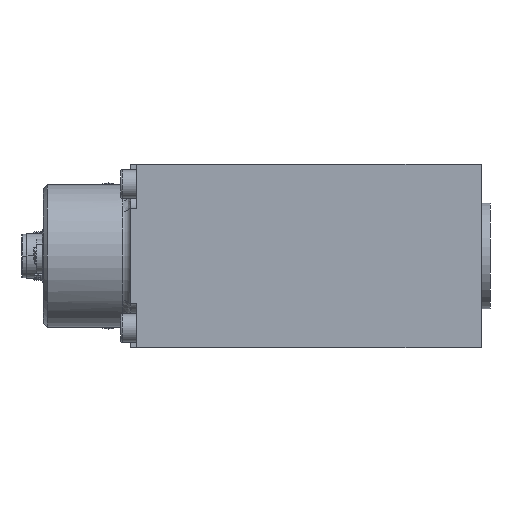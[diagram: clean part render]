
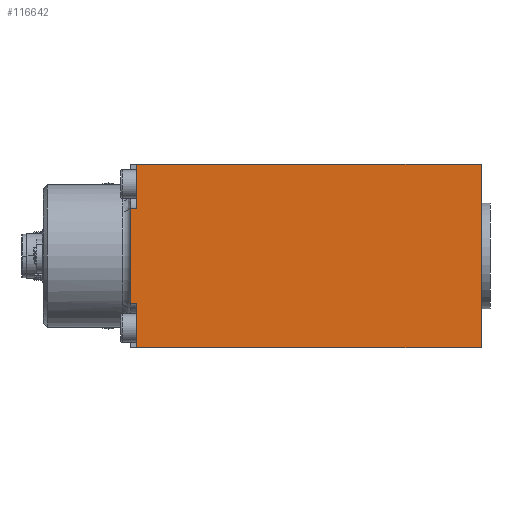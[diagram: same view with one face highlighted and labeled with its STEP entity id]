
A CAD part, front view. The second image highlights one B-rep face of the part: STEP entity #116642.
In plain terms, the highlighted planar face has unit normal (0, -1, 0).
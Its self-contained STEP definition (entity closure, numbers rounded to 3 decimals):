
#1013 = CARTESIAN_POINT ( 'NONE',  ( 0., -22.5, 11.68 ) ) ;
#4696 = CARTESIAN_POINT ( 'NONE',  ( 86., -22.5, 22.5 ) ) ;
#8416 = VECTOR ( 'NONE', #33854, 1000. ) ;
#9591 = CARTESIAN_POINT ( 'NONE',  ( 1.5, -22.5, 11.68 ) ) ;
#9874 = VERTEX_POINT ( 'NONE', #54892 ) ;
#11040 = EDGE_CURVE ( 'NONE', #63706, #67073, #130120, .T. ) ;
#12091 = ORIENTED_EDGE ( 'NONE', *, *, #26759, .F. ) ;
#13332 = ORIENTED_EDGE ( 'NONE', *, *, #92807, .T. ) ;
#13589 = DIRECTION ( 'NONE',  ( -1., 0., 0. ) ) ;
#13861 = CARTESIAN_POINT ( 'NONE',  ( 0., -22.5, 22.5 ) ) ;
#15652 = DIRECTION ( 'NONE',  ( 0., 0., -1. ) ) ;
#16086 = CARTESIAN_POINT ( 'NONE',  ( 1.5, -22.5, -11.68 ) ) ;
#17192 = ORIENTED_EDGE ( 'NONE', *, *, #140739, .F. ) ;
#22321 = CARTESIAN_POINT ( 'NONE',  ( 1.5, -22.5, 11.68 ) ) ;
#23174 = VECTOR ( 'NONE', #57998, 1000. ) ;
#23337 = DIRECTION ( 'NONE',  ( -1., 0., 0. ) ) ;
#26759 = EDGE_CURVE ( 'NONE', #38386, #33957, #61004, .T. ) ;
#27196 = DIRECTION ( 'NONE',  ( 0., 1., 0. ) ) ;
#28431 = VECTOR ( 'NONE', #63862, 1000. ) ;
#32345 = VERTEX_POINT ( 'NONE', #1013 ) ;
#33854 = DIRECTION ( 'NONE',  ( 0., 0., 1. ) ) ;
#33957 = VERTEX_POINT ( 'NONE', #36717 ) ;
#36361 = VERTEX_POINT ( 'NONE', #123725 ) ;
#36717 = CARTESIAN_POINT ( 'NONE',  ( 1.5, -22.5, -22.5 ) ) ;
#37113 = ORIENTED_EDGE ( 'NONE', *, *, #84186, .F. ) ;
#37622 = LINE ( 'NONE', #22321, #8416 ) ;
#38386 = VERTEX_POINT ( 'NONE', #97401 ) ;
#45637 = AXIS2_PLACEMENT_3D ( 'NONE', #92767, #27196, #103798 ) ;
#47295 = VECTOR ( 'NONE', #100903, 1000. ) ;
#49434 = ORIENTED_EDGE ( 'NONE', *, *, #93441, .F. ) ;
#52356 = LINE ( 'NONE', #13861, #23174 ) ;
#53118 = ORIENTED_EDGE ( 'NONE', *, *, #73963, .T. ) ;
#54892 = CARTESIAN_POINT ( 'NONE',  ( 1.5, -22.5, -11.68 ) ) ;
#56735 = LINE ( 'NONE', #4696, #111483 ) ;
#57998 = DIRECTION ( 'NONE',  ( 0., 0., -1. ) ) ;
#58106 = FACE_OUTER_BOUND ( 'NONE', #110583, .T. ) ;
#59248 = EDGE_CURVE ( 'NONE', #63706, #38386, #56735, .T. ) ;
#59776 = PLANE ( 'NONE',  #45637 ) ;
#61004 = LINE ( 'NONE', #118365, #28431 ) ;
#61632 = VECTOR ( 'NONE', #23337, 1000. ) ;
#63706 = VERTEX_POINT ( 'NONE', #89123 ) ;
#63862 = DIRECTION ( 'NONE',  ( -1., 0., 0. ) ) ;
#67073 = VERTEX_POINT ( 'NONE', #131047 ) ;
#70697 = DIRECTION ( 'NONE',  ( 0., 0., 1. ) ) ;
#73963 = EDGE_CURVE ( 'NONE', #74624, #32345, #134434, .T. ) ;
#74624 = VERTEX_POINT ( 'NONE', #9591 ) ;
#74997 = ORIENTED_EDGE ( 'NONE', *, *, #59248, .F. ) ;
#77951 = CARTESIAN_POINT ( 'NONE',  ( 86., -22.5, 22.5 ) ) ;
#84186 = EDGE_CURVE ( 'NONE', #74624, #67073, #37622, .T. ) ;
#89123 = CARTESIAN_POINT ( 'NONE',  ( 86., -22.5, 22.5 ) ) ;
#92767 = CARTESIAN_POINT ( 'NONE',  ( 86., -22.5, 22.5 ) ) ;
#92807 = EDGE_CURVE ( 'NONE', #32345, #36361, #52356, .T. ) ;
#93441 = EDGE_CURVE ( 'NONE', #33957, #9874, #136025, .T. ) ;
#97401 = CARTESIAN_POINT ( 'NONE',  ( 86., -22.5, -22.5 ) ) ;
#100903 = DIRECTION ( 'NONE',  ( -1., 0., 0. ) ) ;
#101227 = CARTESIAN_POINT ( 'NONE',  ( 1.5, -22.5, 11.68 ) ) ;
#101930 = VECTOR ( 'NONE', #13589, 1000. ) ;
#102095 = LINE ( 'NONE', #133406, #47295 ) ;
#103798 = DIRECTION ( 'NONE',  ( 0., 0., 1. ) ) ;
#106996 = VECTOR ( 'NONE', #70697, 1000. ) ;
#110583 = EDGE_LOOP ( 'NONE', ( #37113, #53118, #13332, #17192, #49434, #12091, #74997, #126886 ) ) ;
#111483 = VECTOR ( 'NONE', #15652, 1000. ) ;
#116642 = ADVANCED_FACE ( 'NONE', ( #58106 ), #59776, .F. ) ;
#118365 = CARTESIAN_POINT ( 'NONE',  ( 86., -22.5, -22.5 ) ) ;
#123725 = CARTESIAN_POINT ( 'NONE',  ( 0., -22.5, -11.68 ) ) ;
#126886 = ORIENTED_EDGE ( 'NONE', *, *, #11040, .T. ) ;
#130120 = LINE ( 'NONE', #77951, #61632 ) ;
#131047 = CARTESIAN_POINT ( 'NONE',  ( 1.5, -22.5, 22.5 ) ) ;
#133406 = CARTESIAN_POINT ( 'NONE',  ( 1.5, -22.5, -11.68 ) ) ;
#134434 = LINE ( 'NONE', #101227, #101930 ) ;
#136025 = LINE ( 'NONE', #16086, #106996 ) ;
#140739 = EDGE_CURVE ( 'NONE', #9874, #36361, #102095, .T. ) ;
